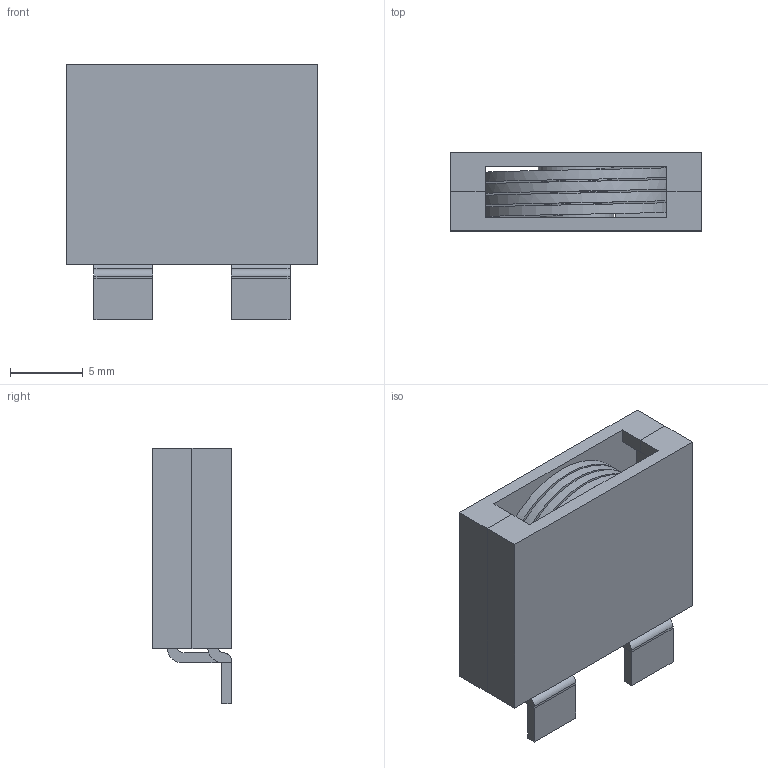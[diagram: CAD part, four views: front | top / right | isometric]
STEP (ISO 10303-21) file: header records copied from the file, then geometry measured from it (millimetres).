
FILE_DESCRIPTION (( 'STEP AP214' ), '1' );
FILE_NAME ('CWS-5294A-REV.B.STEP', '2019-08-01T19:59:10', ( '' ), ( '' ), 'SwSTEP 2.0', 'SolidWorks 2015', '' );
FILE_SCHEMA (( 'AUTOMOTIVE_DESIGN' ));
Length unit declared in the file: inch
Products named in the file (7): CWS-5294A-REV.B; Assem4_2; CWS-5294A coil_1; CWS-5294A-CASE
Assembly tree (4 placements, depth 3):
  CWS-5294A-REV.B
    Assem4_2
      CWS-5294A-CASE  x2
      CWS-5294A coil_1
  CWS-5294A-CASE
  CWS-5294A coil_1
  CWS-5294A-CASE
Bounding box: 17.3 x 5.4 x 17.6 mm (x, y, z)
Volume: 979.2 mm3; surface area: 2586.6 mm2
Topology: 5 solids, 5 shells, 67 faces, 169 edges, 110 vertices
Faces by surface type: plane 55, cylinder 8, bspline 4
Full cylindrical faces by diameter (mm): 5.2 x2
Entity records: 3049 total; most frequent: CARTESIAN_POINT 965, ORIENTED_EDGE 258, DIRECTION 245, EDGE_CURVE 129, VECTOR 105, LINE 105, VERTEX_POINT 84, AXIS2_PLACEMENT_3D 70
